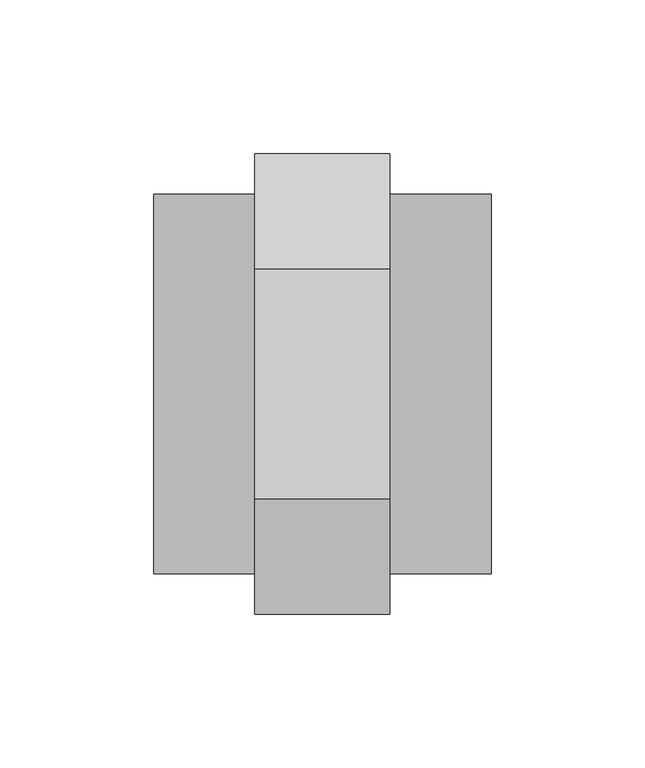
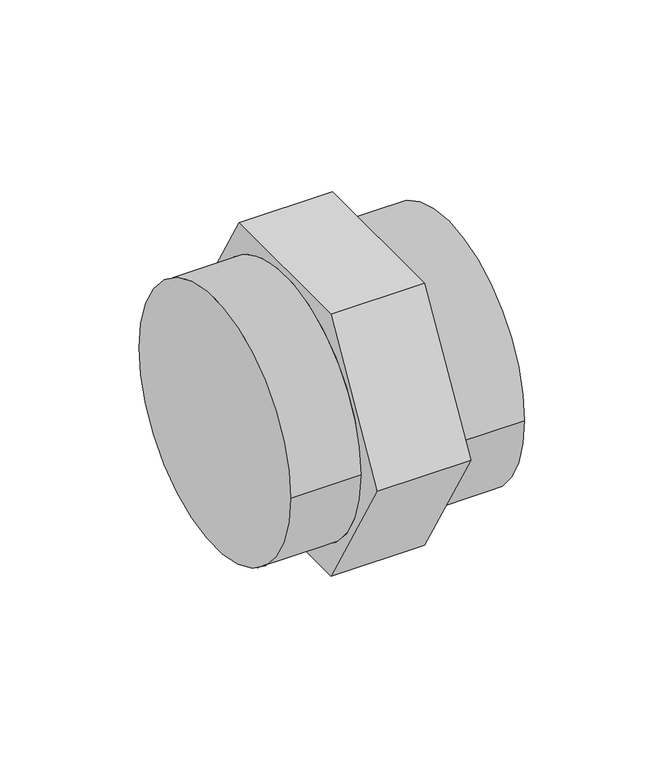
"""IFC4 building model written with IfcOpenShell, lengths in millimetres: pipe fitting geometry, 01101007 : Uniao F/F."""

from ifc_helpers import new_model, si_unit, frame, origin, place, context, project, spatial, circle_curve, source, transform, mapped, element, save
from ifc_brep_helpers import plane_surface, cylinder_surface, advanced_brep


def pipe_fitting_91f3ce1f(model_context):
    return source(origin(), model_context, "Body", "AdvancedBrep", [
        advanced_brep(
        [(22.0, -37.5277675, 65.0), (22.0, -75.055535, 0.0), (22.0, -37.5277675, -65.0), (22.0, 37.5277675, -65.0), (22.0, 75.055535, 0.0), (22.0, 37.5277675, 65.0), (22.0, -61.75, 0.0), (22.0, 61.75, 0.0), (-22.0, -37.5277675, 65.0), (-22.0, 37.5277675, 65.0), (-22.0, 75.055535, 0.0), (-22.0, 37.5277675, -65.0), (-22.0, -37.5277675, -65.0), (-22.0, -75.055535, 0.0), (-22.0, 61.75, 0.0), (-22.0, -61.75, 0.0), (-55.0, -61.75, 0.0), (-55.0, 61.75, 0.0), (55.0, -61.75, 0.0), (55.0, 61.75, 0.0)],
        [
            (0, 1),
            (1, 2),
            (2, 3),
            (3, 4),
            (4, 5),
            (5, 0),
            (6, 7, circle_curve(frame((22.0, 0.0, 0.0), z_axis=(-1.0, 0.0, 0.0), x_axis=(0.0, 1.0, 0.0)), 61.75)),
            (7, 6, circle_curve(frame((22.0, 0.0, 0.0), z_axis=(-1.0, 0.0, 0.0), x_axis=(0.0, 1.0, 0.0)), 61.75)),
            (8, 9),
            (9, 10),
            (10, 11),
            (11, 12),
            (12, 13),
            (13, 8),
            (14, 15, circle_curve(frame((-22.0, 0.0, 0.0), z_axis=(1.0, 0.0, 0.0), x_axis=(0.0, 1.0, 0.0)), 61.75)),
            (15, 14, circle_curve(frame((-22.0, 0.0, 0.0), z_axis=(1.0, 0.0, 0.0), x_axis=(0.0, 1.0, 0.0)), 61.75)),
            (0, 8),
            (13, 1),
            (12, 2),
            (11, 3),
            (10, 4),
            (9, 5),
            (16, 17, circle_curve(frame((-55.0, 0.0, 0.0), z_axis=(-1.0, 0.0, 0.0), x_axis=(0.0, 1.0, 0.0)), 61.75)),
            (17, 16, circle_curve(frame((-55.0, 0.0, 0.0), z_axis=(-1.0, 0.0, 0.0), x_axis=(0.0, 1.0, 0.0)), 61.75)),
            (18, 19, circle_curve(frame((55.0, 0.0, 0.0), z_axis=(1.0, 0.0, 0.0), x_axis=(0.0, 1.0, 0.0)), 61.75)),
            (19, 18, circle_curve(frame((55.0, 0.0, 0.0), z_axis=(1.0, 0.0, 0.0), x_axis=(0.0, 1.0, 0.0)), 61.75)),
            (16, 15),
            (14, 17),
            (19, 7),
            (6, 18),
        ],
        [
            plane_surface(frame((22.0, -37.5277675, 65.0), z_axis=(1.0, 0.0, 0.0), x_axis=(0.0, -0.5000000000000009, -0.8660254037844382))),
            plane_surface(frame((-22.0, -37.5277675, 65.0), z_axis=(-1.0, 0.0, 0.0), x_axis=(0.0, 0.5000000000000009, 0.8660254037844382))),
            plane_surface(frame((22.0, -37.5277675, 65.0), z_axis=(0.0, -0.8660254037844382, 0.5000000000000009), x_axis=(-1.0, 0.0, 0.0))),
            plane_surface(frame((22.0, -75.055535, 0.0), z_axis=(0.0, -0.866025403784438, -0.5000000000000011), x_axis=(-1.0, 0.0, 0.0))),
            plane_surface(frame((22.0, -37.5277675, -65.0), z_axis=(0.0, 0.0, -1.0), x_axis=(-1.0, 0.0, 0.0))),
            plane_surface(frame((22.0, 37.5277675, -65.0), z_axis=(0.0, 0.8660254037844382, -0.500000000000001), x_axis=(-1.0, 0.0, 0.0))),
            plane_surface(frame((22.0, 75.055535, 0.0), z_axis=(0.0, 0.866025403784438, 0.500000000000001), x_axis=(-1.0, 0.0, 0.0))),
            plane_surface(frame((22.0, 37.5277675, 65.0), z_axis=(0.0, 0.0, 1.0), x_axis=(-1.0, 0.0, 0.0))),
            plane_surface(frame((-55.0, 0.0, 0.0), z_axis=(-1.0, 0.0, 0.0), x_axis=(0.0, 0.0, 1.0))),
            plane_surface(frame((55.0, 0.0, 0.0), z_axis=(1.0, 0.0, 0.0), x_axis=(0.0, 0.0, 1.0))),
            cylinder_surface(frame((-55.0, 0.0, 0.0), z_axis=(-1.0, 0.0, 0.0), x_axis=(0.0, 1.0, 0.0)), 61.75),
        ],
        [
            (0, [[1, 2, 3, 4, 5, 6], [7, 8]]),
            (1, [[9, 10, 11, 12, 13, 14], [15, 16]]),
            (2, [[-1, 17, -14, 18]]),
            (3, [[-2, -18, -13, 19]]),
            (4, [[-3, -19, -12, 20]]),
            (5, [[-4, -20, -11, 21]]),
            (6, [[-5, -21, -10, 22]]),
            (7, [[-6, -22, -9, -17]]),
            (8, [[23, 24]]),
            (9, [[25, 26]]),
            (10, [[-23, 27, -15, 28]]),
            (10, [[-26, 29, -7, 30]]),
            (10, [[-24, -28, -16, -27]]),
            (10, [[-25, -30, -8, -29]]),
        ],
    ),
    ])


if __name__ == "__main__":
    model = new_model("IFC4")
    model_context = context("Model", 3, world=origin())
    ifc_project = project(units=[si_unit("LENGTHUNIT", "METRE", prefix="MILLI")], contexts=[model_context])
    site = spatial("IfcSite", under=ifc_project)
    building = spatial("IfcBuilding", under=site)
    placement = place(None, origin())
    pipe_fitting_shape = pipe_fitting_91f3ce1f(model_context)
    element("IfcPipeFitting", 1, ObjectType="01101007 : Uniao F/F", at=placement, inside=building, context=model_context, shape_type="MappedRepresentation", body=[
        mapped(pipe_fitting_shape, transform((0.0, 0.0, 0.0), x_axis=(1.0, 0.0, 0.0), y_axis=(0.0, 1.0, 0.0), z_axis=(0.0, 0.0, 1.0))),
    ])
    save(model, "model.ifc")
